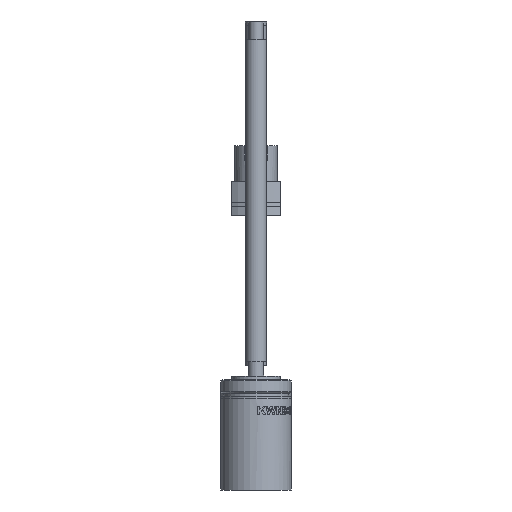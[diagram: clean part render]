
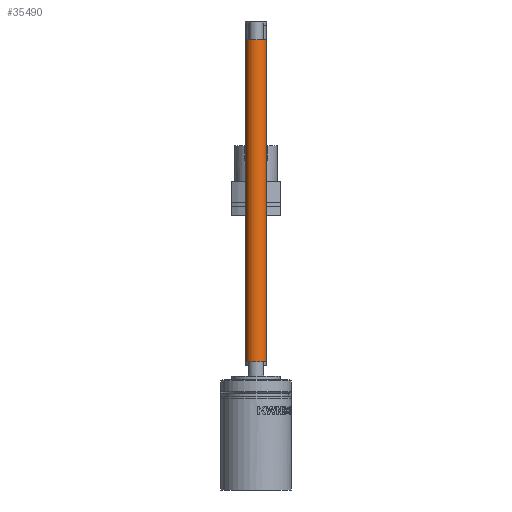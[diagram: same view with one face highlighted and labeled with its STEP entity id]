
A CAD part, left-side view. The second image highlights one B-rep face of the part: STEP entity #35490.
In plain terms, the highlighted cylindrical face has radius 1.5 mm (diameter 3 mm), a full revolution.
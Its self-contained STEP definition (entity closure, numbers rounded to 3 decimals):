
#35490=ADVANCED_FACE('',(#38256,#38257),#36236,.T.);
#36236=CYLINDRICAL_SURFACE('',#85391,1.5);
#38256=FACE_BOUND('',#43264,.T.);
#38257=FACE_BOUND('',#43265,.T.);
#43264=EDGE_LOOP('',(#60812));
#43265=EDGE_LOOP('',(#60813));
#60812=ORIENTED_EDGE('',*,*,#75742,.F.);
#60813=ORIENTED_EDGE('',*,*,#75741,.F.);
#66967=VERTEX_POINT('',#177947);
#66968=VERTEX_POINT('',#177950);
#75741=EDGE_CURVE('',#66967,#66967,#77688,.T.);
#75742=EDGE_CURVE('',#66968,#66968,#77689,.T.);
#77688=CIRCLE('',#85388,1.5);
#77689=CIRCLE('',#85390,1.5);
#85388=AXIS2_PLACEMENT_3D('',#177946,#97202,#97203);
#85390=AXIS2_PLACEMENT_3D('',#177949,#97206,#97207);
#85391=AXIS2_PLACEMENT_3D('',#177951,#97208,#97209);
#97202=DIRECTION('',(0.,0.,1.));
#97203=DIRECTION('',(-1.,0.,0.));
#97206=DIRECTION('',(0.,0.,-1.));
#97207=DIRECTION('',(-1.,0.,0.));
#97208=DIRECTION('',(0.,0.,-1.));
#97209=DIRECTION('',(-1.,0.,0.));
#177946=CARTESIAN_POINT('',(-186.,0.,63.6));
#177947=CARTESIAN_POINT('',(-187.5,0.,63.6));
#177949=CARTESIAN_POINT('',(-186.,0.,18.1));
#177950=CARTESIAN_POINT('',(-187.5,0.,18.1));
#177951=CARTESIAN_POINT('',(-186.,0.,15.6));
